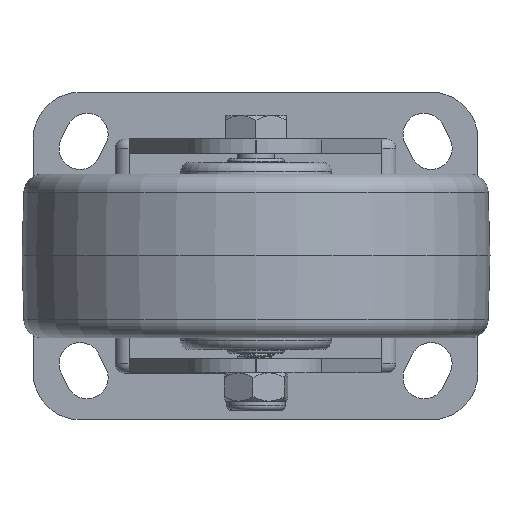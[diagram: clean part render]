
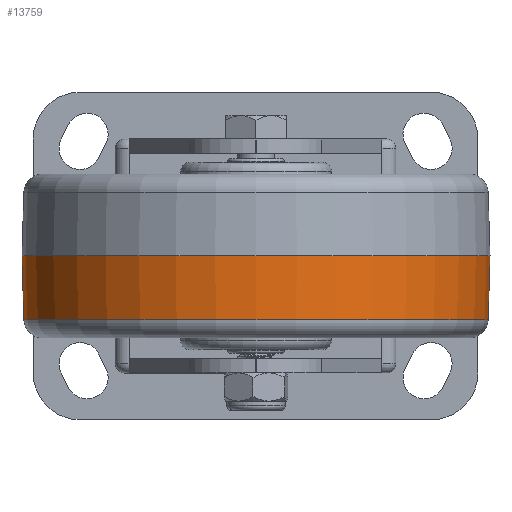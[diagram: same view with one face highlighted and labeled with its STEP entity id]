
A CAD part, front view. The second image highlights one B-rep face of the part: STEP entity #13759.
In plain terms, the highlighted conical face has half-angle 1.637 degrees and reference radius 49.611 mm.
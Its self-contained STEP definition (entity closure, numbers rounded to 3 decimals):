
#38 = AXIS2_PLACEMENT_3D ( 'NONE', #16067, #31736, #12703 ) ;
#712 = LINE ( 'NONE', #23050, #13482 ) ;
#1173 = CARTESIAN_POINT ( 'NONE',  ( 0., 0., 0. ) ) ;
#3334 = CONICAL_SURFACE ( 'NONE', #24832, 49.611, 0.029 ) ;
#10072 = CARTESIAN_POINT ( 'NONE',  ( -13.614, 0., 0. ) ) ;
#10650 = LINE ( 'NONE', #25847, #16667 ) ;
#10661 = DIRECTION ( 'NONE',  ( 0., 0., 1. ) ) ;
#12703 = DIRECTION ( 'NONE',  ( 0., 0., 1. ) ) ;
#12772 = CARTESIAN_POINT ( 'NONE',  ( 0., 0., -50. ) ) ;
#13482 = VECTOR ( 'NONE', #29600, 1000. ) ;
#13759 = ADVANCED_FACE ( 'NONE', ( #16807 ), #3334, .T. ) ;
#14082 = ORIENTED_EDGE ( 'NONE', *, *, #15297, .F. ) ;
#15297 = EDGE_CURVE ( 'NONE', #29449, #37676, #712, .T. ) ;
#15842 = AXIS2_PLACEMENT_3D ( 'NONE', #1173, #39551, #10661 ) ;
#15911 = EDGE_CURVE ( 'NONE', #22131, #35539, #10650, .T. ) ;
#16067 = CARTESIAN_POINT ( 'NONE',  ( -13.614, 0., 0. ) ) ;
#16570 = ORIENTED_EDGE ( 'NONE', *, *, #27741, .T. ) ;
#16595 = DIRECTION ( 'NONE',  ( 0., 0., 1. ) ) ;
#16667 = VECTOR ( 'NONE', #20373, 1000. ) ;
#16746 = CARTESIAN_POINT ( 'NONE',  ( 0., 0., 50. ) ) ;
#16807 = FACE_OUTER_BOUND ( 'NONE', #37444, .T. ) ;
#18214 = CIRCLE ( 'NONE', #38, 49.611 ) ;
#20373 = DIRECTION ( 'NONE',  ( 1., 0., -0.029 ) ) ;
#22131 = VERTEX_POINT ( 'NONE', #36257 ) ;
#23050 = CARTESIAN_POINT ( 'NONE',  ( -13.614, 0., 49.611 ) ) ;
#24832 = AXIS2_PLACEMENT_3D ( 'NONE', #10072, #36013, #16595 ) ;
#25847 = CARTESIAN_POINT ( 'NONE',  ( -13.614, 0., -49.611 ) ) ;
#25933 = CIRCLE ( 'NONE', #15842, 50. ) ;
#27741 = EDGE_CURVE ( 'NONE', #35539, #37676, #25933, .T. ) ;
#29449 = VERTEX_POINT ( 'NONE', #31867 ) ;
#29600 = DIRECTION ( 'NONE',  ( 1., 0., 0.029 ) ) ;
#30191 = ORIENTED_EDGE ( 'NONE', *, *, #35184, .F. ) ;
#30381 = ORIENTED_EDGE ( 'NONE', *, *, #15911, .T. ) ;
#31736 = DIRECTION ( 'NONE',  ( -1., 0., 0. ) ) ;
#31867 = CARTESIAN_POINT ( 'NONE',  ( -13.614, 0., 49.611 ) ) ;
#35184 = EDGE_CURVE ( 'NONE', #22131, #29449, #18214, .T. ) ;
#35539 = VERTEX_POINT ( 'NONE', #12772 ) ;
#36013 = DIRECTION ( 'NONE',  ( 1., 0., 0. ) ) ;
#36257 = CARTESIAN_POINT ( 'NONE',  ( -13.614, 0., -49.611 ) ) ;
#37444 = EDGE_LOOP ( 'NONE', ( #30191, #30381, #16570, #14082 ) ) ;
#37676 = VERTEX_POINT ( 'NONE', #16746 ) ;
#39551 = DIRECTION ( 'NONE',  ( -1., 0., 0. ) ) ;
